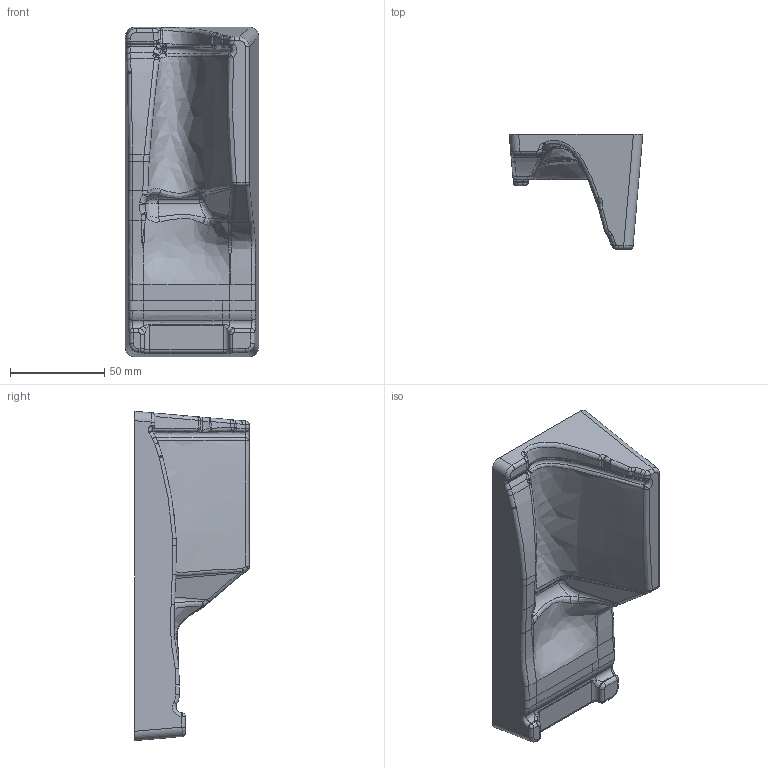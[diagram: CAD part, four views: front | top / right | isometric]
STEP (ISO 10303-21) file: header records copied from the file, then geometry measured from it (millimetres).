
FILE_DESCRIPTION(/* description */ (''),/* implementation_level */ '2;1');
FILE_NAME(/* name */ 'Ложемент 1 ступени.stp',/* time_stamp */ '2025-01-22T16:32:29+03:00',/* author */ (''),/* organization */ (''),/* preprocessor_version */ 'ST-DEVELOPER v18.1',/* originating_system */ 'SIEMENS PLM Software NX 1973',/* authorisation */ '');
FILE_SCHEMA (('AUTOMOTIVE_DESIGN { 1 0 10303 214 3 1 1 1 }'));
Length unit declared in the file: millimetre
Products named in the file (1): U1411D49C52hrnb
Bounding box: 70.99 x 61 x 175.09 mm (x, y, z)
Volume: 293076.7 mm3; surface area: 42146.9 mm2
Topology: 1 solids, 1 shells, 248 faces, 610 edges, 341 vertices
Faces by surface type: bspline 154, cylinder 48, plane 24, sphere 14, extrusion 8
Entity records: 17958 total; most frequent: CARTESIAN_POINT 13256, ORIENTED_EDGE 1174, DIRECTION 708, EDGE_CURVE 587, VERTEX_POINT 341, AXIS2_PLACEMENT_3D 300, B_SPLINE_CURVE_WITH_KNOTS 282, ADVANCED_FACE 248
